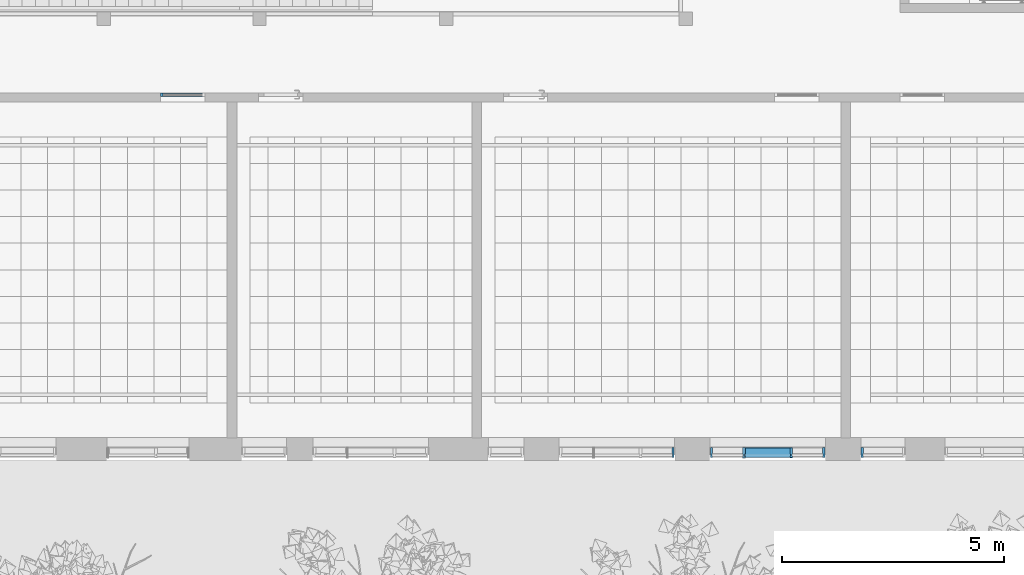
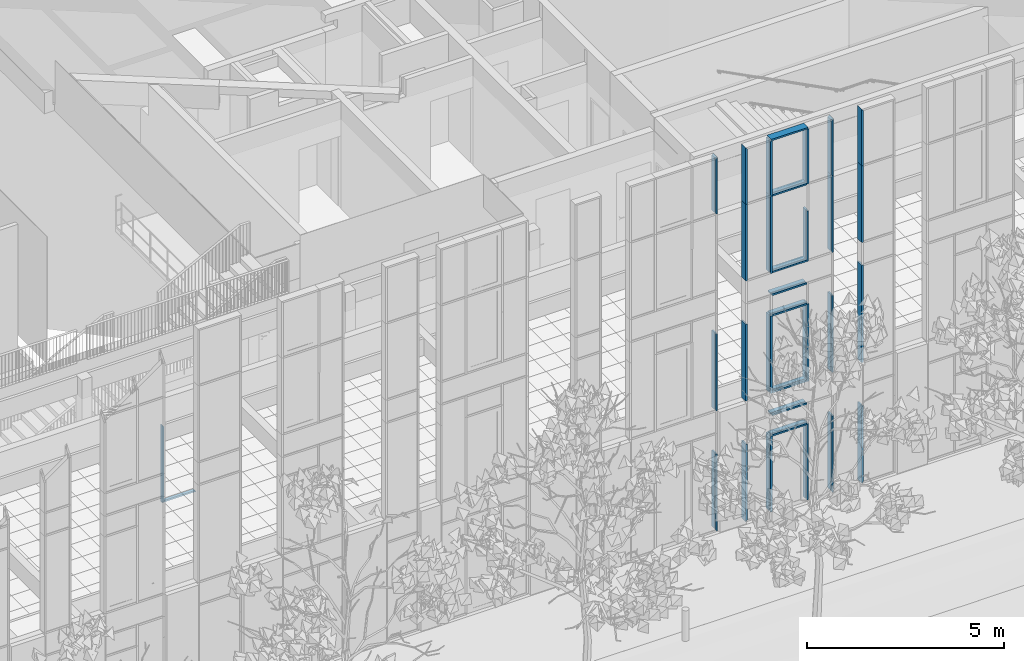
# One storey, part 24 of 246: 33 members, 4 elements without a shape of their own.
"""IFC2X3 building model written with IfcOpenShell, lengths in millimetres."""

from ifc_helpers import new_model, entity, si_unit, converted_unit, derived_unit, money_unit, direction, frame, origin_with_axes, place, context, subcontext, project, spatial, faceted_brep, source, transform, mapped, material, type_object, element, aggregate, save


model = new_model("IFC2X3")

# Units and contexts
model_context = context("Model", 3, precision=0.01, world=origin_with_axes(), true_north=direction((0.0, 1.0)))
body_context = subcontext(model_context, "Body", "Model", "MODEL_VIEW")
ifc_project = project(units=[si_unit("LENGTHUNIT", "METRE", prefix="MILLI"), si_unit("AREAUNIT", "SQUARE_METRE"), si_unit("VOLUMEUNIT", "CUBIC_METRE"), converted_unit("PLANEANGLEUNIT", "DEGREE", entity("IfcPlaneAngleMeasure", 0.0174532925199), si_unit("PLANEANGLEUNIT", "RADIAN"), dimensions=[0, 0, 0, 0, 0, 0, 0]), si_unit("SOLIDANGLEUNIT", "STERADIAN"), money_unit("EUR"), converted_unit("TIMEUNIT", "Year", entity("IfcTimeMeasure", 31556926.0), si_unit("TIMEUNIT", "SECOND"), dimensions=[0, 0, 1, 0, 0, 0, 0]), si_unit("MASSUNIT", "GRAM", prefix="KILO"), si_unit("THERMODYNAMICTEMPERATUREUNIT", "DEGREE_CELSIUS"), si_unit("LUMINOUSINTENSITYUNIT", "LUMEN"), si_unit("ENERGYUNIT", "JOULE", prefix="MEGA"), derived_unit("THERMALCONDUCTANCEUNIT", [(si_unit("POWERUNIT", "WATT"), 1), (si_unit("LENGTHUNIT", "METRE"), -1), (si_unit("THERMODYNAMICTEMPERATUREUNIT", "KELVIN"), -1)]), derived_unit("SPECIFICHEATCAPACITYUNIT", [(si_unit("ENERGYUNIT", "JOULE"), 1), (si_unit("MASSUNIT", "GRAM", prefix="KILO"), -1), (si_unit("THERMODYNAMICTEMPERATUREUNIT", "KELVIN"), -1)]), derived_unit("MASSDENSITYUNIT", [(si_unit("MASSUNIT", "GRAM", prefix="KILO"), 1), (si_unit("VOLUMEUNIT", "CUBIC_METRE"), -1)])], contexts=[model_context])

# Site, building, storey
site_placement = place(None, origin_with_axes())
site = spatial("IfcSite", under=ifc_project, at=site_placement, Name="L.Koidula tn 11b", CompositionType="ELEMENT")
building_placement = place(site_placement, origin_with_axes())
building = spatial("IfcBuilding", under=site, at=building_placement, Name="Rakvere Riigigümnaasium", CompositionType="ELEMENT")
storey_placement = place(building_placement, origin_with_axes())
storey = spatial("IfcBuildingStorey", under=building, at=storey_placement, Name="1.korrus 0,00", CompositionType="ELEMENT", Elevation=0.0)

# Curtain wall, members
curtain_wall_type = type_object("IfcCurtainWallType", Name="Curtain Wall Type", PredefinedType="NOTDEFINED")
curtain_wall_1_placement = place(storey_placement, frame((72896.908541, 5111.45334637, -8.09717227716e-06), z_axis=(0.0, 0.0, 1.0), x_axis=(1.0, 0.0, 0.0)))
curtain_wall_1 = element("IfcCurtainWall", 1, at=curtain_wall_1_placement, inside=storey, type_object=curtain_wall_type, Name="KLF-05-3B")
ifc_material_1 = material(Name="Alumiiniumprofiil (RAL 7021)")
member_type_1 = type_object("IfcMemberType", Name="Boundary Frame 50 x 222", PredefinedType="MULLION")
shared_shape_1 = source(origin_with_axes(), body_context, "Body", "Brep", [
    faceted_brep([(37.0, -32.5, 2375.00000025), (37.0, 32.5, 2375.00000025), (50.0, 32.5, 2375.00000025), (50.0, 53.0, 2375.00000025), (0.0, 53.0, 2375.00000025), (0.0, -169.0, 2375.00000025), (50.0, -169.0, 2375.00000025), (50.0, -32.5, 2375.00000025), (37.0, -32.5, -2.4712543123e-07), (37.0, 32.5, -2.4712543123e-07), (50.0, 32.5, -2.47125653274e-07), (50.0, 53.0, -2.47125653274e-07), (0.0, 53.0, -2.47125653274e-07), (0.0, -169.0, -2.47125653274e-07), (50.0, -169.0, -2.47125653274e-07), (50.0, -32.5, -2.47125653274e-07)], [[[0, 1, 2, 3, 4, 5, 6, 7]], [[1, 0, 8, 9]], [[10, 2, 1, 9]], [[2, 10, 11, 3]], [[12, 4, 3, 11]], [[13, 5, 4, 12]], [[14, 6, 5, 13]], [[15, 7, 6, 14]], [[0, 7, 15, 8]], [[8, 15, 14, 13, 12, 11, 10, 9]]]),
])
member_1_placement = place(curtain_wall_1_placement, frame((-1186.90871197, 0.0, 6120.0), z_axis=(0.0, 0.0, -1.0), x_axis=(1.0, 0.0, 0.0)))
member_1 = element("IfcMember", 2, at=member_1_placement, type_object=member_type_1, material=ifc_material_1, Name="KLF-05-8A-Profiilid", ObjectType="MULLION", context=body_context, shape_type="MappedRepresentation", body=[
    mapped(shared_shape_1, transform((0.0, 0.0, 0.0))),
])
member_2_placement = place(curtain_wall_1_placement, frame((-1186.90888468, 0.0, 9840.0), z_axis=(0.0, 0.0, -1.0), x_axis=(1.0, 0.0, 0.0)))
member_2 = element("IfcMember", 3, at=member_2_placement, type_object=member_type_1, material=ifc_material_1, Name="KLF-05-5A-Profiilid", ObjectType="MULLION", context=body_context, shape_type="MappedRepresentation", body=[
    mapped(shared_shape_1, transform((0.0, 0.0, 0.0))),
])
member_3_placement = place(curtain_wall_1_placement, frame((1393.0913307, 0.0, 7465.0), z_axis=(-7.74479016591e-09, 0.0, 1.0), x_axis=(-1.0, 0.0, -7.74479016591e-09)))
member_3 = element("IfcMember", 4, at=member_3_placement, type_object=member_type_1, material=ifc_material_1, Name="KLF-05-9A-Profiilid", ObjectType="MULLION", context=body_context, shape_type="MappedRepresentation", body=[
    mapped(shared_shape_1, transform((0.0, 0.0, 0.0))),
])
member_4_placement = place(curtain_wall_1_placement, frame((1393.0913307, 0.0, 3745.0), z_axis=(-2.40928437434e-08, 0.0, 1.0), x_axis=(-1.0, 0.0, -2.40928437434e-08)))
member_4 = element("IfcMember", 5, at=member_4_placement, type_object=member_type_1, material=ifc_material_1, Name="KLF-05-6A-Profiilid", ObjectType="MULLION", context=body_context, shape_type="MappedRepresentation", body=[
    mapped(shared_shape_1, transform((0.0, 0.0, 0.0))),
])

# Curtain wall, member
curtain_wall_2_placement = place(storey_placement, frame((69496.9084811, 5111.45334637, -8.09717186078e-06), z_axis=(0.0, 0.0, 1.0), x_axis=(1.0, 0.0, 0.0)))
curtain_wall_2 = element("IfcCurtainWall", 6, at=curtain_wall_2_placement, inside=storey, type_object=curtain_wall_type, Name="KLF-05-3B")
member_5_placement = place(curtain_wall_2_placement, frame((1393.0913307, 0.0, 3745.0), z_axis=(-2.40928437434e-08, 0.0, 1.0), x_axis=(-1.0, 0.0, -2.40928437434e-08)))
member_5 = element("IfcMember", 7, at=member_5_placement, type_object=member_type_1, material=ifc_material_1, Name="KLF-05-6A-Profiilid", ObjectType="MULLION", context=body_context, shape_type="MappedRepresentation", body=[
    mapped(shared_shape_1, transform((0.0, 0.0, 0.0))),
])

curtain_wall_3_placement = place(storey_placement, frame((75600.000125, 5111.45334637, -1.61944652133e-05), z_axis=(0.0, 0.0, 1.0), x_axis=(1.0, 0.0, 0.0)))
curtain_wall_3 = element("IfcCurtainWall", 8, at=curtain_wall_3_placement, inside=storey, type_object=curtain_wall_type, Name="KLF-05-4B")
shared_shape_2 = source(origin_with_axes(), body_context, "Body", "Brep", [
    faceted_brep([(-37.0, -32.5, 2375.0), (-50.0, -32.5, 2375.0), (-50.0, -169.0, 2375.0), (0.0, -169.0, 2375.0), (0.0, 53.0, 2375.0), (-50.0, 53.0, 2375.0), (-50.0, 32.5, 2375.0), (-37.0, 32.5, 2375.0), (-37.0, -32.5, 0.0), (-50.0, -32.5, 0.0), (-50.0, -169.0, 0.0), (0.0, -169.0, 0.0), (0.0, 53.0, 0.0), (-50.0, 53.0, 0.0), (-50.0, 32.5, 0.0), (-37.0, 32.5, 0.0)], [[[0, 1, 2, 3, 4, 5, 6, 7]], [[0, 8, 9, 1]], [[9, 10, 2, 1]], [[10, 11, 3, 2]], [[11, 12, 4, 3]], [[12, 13, 5, 4]], [[6, 5, 13, 14]], [[14, 15, 7, 6]], [[7, 15, 8, 0]], [[8, 15, 14, 13, 12, 11, 10, 9]]]),
])
member_6_placement = place(curtain_wall_3_placement, frame((-490.000127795, 0.0, 7465.0), z_axis=(0.0, 0.0, 1.0), x_axis=(-1.0, 0.0, 0.0)))
member_6 = element("IfcMember", 9, at=member_6_placement, type_object=member_type_1, material=ifc_material_1, Name="KLF-15", ObjectType="MULLION", context=body_context, shape_type="MappedRepresentation", body=[
    mapped(shared_shape_2, transform((0.0, 0.0, 0.0))),
])

# Member
shared_shape_3 = source(origin_with_axes(), body_context, "Body", "Brep", [
    faceted_brep([(37.0, -32.5, 1712.99983191), (37.0, 32.5, 1712.99983191), (50.0, 32.5, 1699.99983191), (50.0, 53.0, 1699.99983191), (0.0, 53.0, 1749.99983191), (0.0, -169.0, 1749.99983191), (50.0, -169.0, 1699.99983191), (50.0, -32.5, 1699.99983191), (37.0, -32.5, -2.47125875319e-07), (37.0, 32.5, -2.47125875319e-07), (50.0, 32.5, -2.47125764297e-07), (50.0, 53.0, -2.47125764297e-07), (0.0, 53.0, -2.47125764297e-07), (0.0, -169.0, -2.47125764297e-07), (50.0, -169.0, -2.47125764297e-07), (50.0, -32.5, -2.47125764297e-07)], [[[0, 1, 2, 3, 4, 5, 6, 7]], [[1, 0, 8, 9]], [[10, 2, 1, 9]], [[2, 10, 11, 3]], [[12, 4, 3, 11]], [[13, 5, 4, 12]], [[14, 6, 5, 13]], [[15, 7, 6, 14]], [[0, 7, 15, 8]], [[8, 15, 14, 13, 12, 11, 10, 9]]]),
])
member_7_placement = place(curtain_wall_1_placement, frame((1393.0913123, 0.0, 9840.0), z_axis=(-1.86264510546e-09, 0.0, 1.0), x_axis=(-1.0, 0.0, -1.86264510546e-09)))
member_7 = element("IfcMember", 10, at=member_7_placement, type_object=member_type_1, material=ifc_material_1, Name="KLF-05-0A-Profiilid", ObjectType="MULLION", context=body_context, shape_type="MappedRepresentation", body=[
    mapped(shared_shape_3, transform((0.0, 0.0, 0.0))),
])

member_8_placement = place(curtain_wall_2_placement, frame((1393.0913123, 0.0, 9840.0), z_axis=(-1.86264510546e-09, 0.0, 1.0), x_axis=(-1.0, 0.0, -1.86264510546e-09)))
member_8 = element("IfcMember", 11, at=member_8_placement, type_object=member_type_1, material=ifc_material_1, Name="KLF-05-0A-Profiilid", ObjectType="MULLION", context=body_context, shape_type="MappedRepresentation", body=[
    mapped(shared_shape_3, transform((0.0, 0.0, 0.0))),
])

member_type_2 = type_object("IfcMemberType", Name="Mullion Frame 50 x 222", PredefinedType="MULLION")
shared_shape_4 = source(origin_with_axes(), body_context, "Body", "Brep", [
    faceted_brep([(-12.0, -32.5, 2375.0), (-25.0, -32.5, 2375.0), (-25.0, -169.0, 2375.0), (25.0, -169.0, 2375.0), (25.0, -32.5, 2375.0), (12.0, -32.5, 2375.0), (12.0, 32.5, 2375.0), (25.0, 32.5, 2375.0), (25.0, 53.0, 2375.0), (-25.0, 53.0, 2375.0), (-25.0, 32.5, 2375.0), (-12.0, 32.5, 2375.0), (-12.0, -32.5, -25.0), (-25.0, -32.5, -25.0), (-25.0, -169.0, -25.0), (25.0, -169.0, -25.0), (25.0, -32.5, -25.0), (12.0, -32.5, -25.0), (12.0, 32.5, -25.0), (25.0, 32.5, -25.0), (25.0, 53.0, -25.0), (-25.0, 53.0, -25.0), (-25.0, 32.5, -25.0), (-12.0, 32.5, -25.0)], [[[0, 1, 2, 3, 4, 5, 6, 7, 8, 9, 10, 11]], [[1, 0, 12, 13]], [[1, 13, 14, 2]], [[3, 2, 14, 15]], [[4, 3, 15, 16]], [[4, 16, 17, 5]], [[5, 17, 18, 6]], [[7, 6, 18, 19]], [[19, 20, 8, 7]], [[9, 8, 20, 21]], [[22, 10, 9, 21]], [[11, 10, 22, 23]], [[0, 11, 23, 12]], [[23, 22, 21, 20, 19, 18, 17, 16, 15, 14, 13, 12]]]),
])
member_9_placement = place(curtain_wall_1_placement, frame((-431.908628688, 0.0, 3745.0), z_axis=(0.0, 0.0, 1.0), x_axis=(-1.0, 0.0, 0.0)))
member_9 = element("IfcMember", 12, at=member_9_placement, type_object=member_type_2, material=ifc_material_1, Name="KLF-05-9A-Profiilid", ObjectType="MULLION", context=body_context, shape_type="MappedRepresentation", body=[
    mapped(shared_shape_4, transform((0.0, 0.0, 0.0))),
])

member_10_placement = place(curtain_wall_1_placement, frame((-431.908628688, 0.0, 7465.0), z_axis=(0.0, 0.0, 1.0), x_axis=(-1.0, 0.0, 0.0)))
member_10 = element("IfcMember", 13, at=member_10_placement, type_object=member_type_2, material=ifc_material_1, Name="KLF-05-6A-Profiilid", ObjectType="MULLION", context=body_context, shape_type="MappedRepresentation", body=[
    mapped(shared_shape_4, transform((0.0, 0.0, 0.0))),
])

shared_shape_5 = source(origin_with_axes(), body_context, "Body", "Brep", [
    faceted_brep([(37.0, -32.5, 2400.0), (37.0, 32.5, 2400.0), (50.0, 32.5, 2400.0), (50.0, 53.0, 2400.0), (0.0, 53.0, 2400.0), (0.0, -169.0, 2400.0), (50.0, -169.0, 2400.0), (50.0, -32.5, 2400.0), (37.0, -32.5, 37.0), (37.0, 32.5, 37.0), (50.0, 32.5, 50.0), (50.0, 53.0, 50.0), (0.0, 53.0, 0.0), (0.0, -169.0, 0.0), (50.0, -169.0, 50.0), (50.0, -32.5, 50.0)], [[[0, 1, 2, 3, 4, 5, 6, 7]], [[1, 0, 8, 9]], [[10, 2, 1, 9]], [[2, 10, 11, 3]], [[4, 3, 11, 12]], [[5, 4, 12, 13]], [[6, 5, 13, 14]], [[15, 7, 6, 14]], [[0, 7, 15, 8]], [[8, 15, 14, 13, 12, 11, 10, 9]]]),
])
member_11_placement = place(curtain_wall_1_placement, frame((1393.0913307, 0.0, 0.0), z_axis=(-2.38418766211e-08, 0.0, 1.0), x_axis=(-1.0, 0.0, -2.38418766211e-08)))
member_11 = element("IfcMember", 14, at=member_11_placement, type_object=member_type_1, material=ifc_material_1, Name="KLF-05-3A-Profiilid", ObjectType="MULLION", context=body_context, shape_type="MappedRepresentation", body=[
    mapped(shared_shape_5, transform((0.0, 0.0, 0.0))),
])

member_12_placement = place(curtain_wall_2_placement, frame((1393.0913307, 0.0, 0.0), z_axis=(-2.38418766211e-08, 0.0, 1.0), x_axis=(-1.0, 0.0, -2.38418766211e-08)))
member_12 = element("IfcMember", 15, at=member_12_placement, type_object=member_type_1, material=ifc_material_1, Name="KLF-05-3A-Profiilid", ObjectType="MULLION", context=body_context, shape_type="MappedRepresentation", body=[
    mapped(shared_shape_5, transform((0.0, 0.0, 0.0))),
])

aggregate(curtain_wall_2, [member_5, member_12, member_8])

member_type_3 = type_object("IfcMemberType", Name="50 x 208", PredefinedType="MULLION")
shared_shape_6 = source(origin_with_axes(), body_context, "Body", "Brep", [
    faceted_brep([(-12.0, -27.0, 1025.45673266), (-25.0, -27.0, 1025.45673266), (-25.0, -160.0, 1025.45673266), (25.0, -160.0, 1025.45673266), (25.0, -27.0, 1025.45673266), (12.0, -27.0, 1025.45673266), (12.0, 27.0, 1025.45673266), (25.0, 27.0, 1025.45673266), (25.0, 48.0, 1025.45673266), (-25.0, 48.0, 1025.45673266), (-25.0, 27.0, 1025.45673266), (-12.0, 27.0, 1025.45673266), (-12.0, -27.0, 0.0), (-25.0, -27.0, 0.0), (-25.0, -160.0, 0.0), (25.0, -160.0, 0.0), (25.0, -27.0, 0.0), (12.0, -27.0, 0.0), (12.0, 27.0, 0.0), (25.0, 27.0, 0.0), (25.0, 48.0, 0.0), (-25.0, 48.0, 0.0), (-25.0, 27.0, 0.0), (-12.0, 27.0, 0.0)], [[[0, 1, 2, 3, 4, 5, 6, 7, 8, 9, 10, 11]], [[1, 0, 12, 13]], [[1, 13, 14, 2]], [[3, 2, 14, 15]], [[4, 3, 15, 16]], [[4, 16, 17, 5]], [[5, 17, 18, 6]], [[7, 6, 18, 19]], [[19, 20, 8, 7]], [[9, 8, 20, 21]], [[22, 10, 9, 21]], [[11, 10, 22, 23]], [[0, 11, 23, 12]], [[23, 22, 21, 20, 19, 18, 17, 16, 15, 14, 13, 12]]]),
])
member_13_placement = place(curtain_wall_1_placement, frame((-412.365361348, 0.0, 2400.0), z_axis=(1.0, 0.0, 0.0), x_axis=(0.0, 0.0, 1.0)))
member_13 = element("IfcMember", 16, at=member_13_placement, type_object=member_type_3, material=ifc_material_1, Name="KLF-40", ObjectType="MULLION", context=body_context, shape_type="MappedRepresentation", body=[
    mapped(shared_shape_6, transform((0.0, 0.0, 0.0))),
])

member_14_placement = place(curtain_wall_1_placement, frame((-412.365361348, 0.0, 3040.0), z_axis=(1.0, 0.0, 0.0), x_axis=(0.0, 0.0, 1.0)))
member_14 = element("IfcMember", 17, at=member_14_placement, type_object=member_type_3, material=ifc_material_1, Name="KLF-82", ObjectType="MULLION", context=body_context, shape_type="MappedRepresentation", body=[
    mapped(shared_shape_6, transform((0.0, 0.0, 0.0))),
])

member_15_placement = place(curtain_wall_1_placement, frame((-412.365361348, 0.0, 3745.0), z_axis=(1.0, 0.0, 0.0), x_axis=(0.0, 0.0, 1.0)))
member_15 = element("IfcMember", 18, at=member_15_placement, type_object=member_type_3, material=ifc_material_1, Name="KLF-84", ObjectType="MULLION", context=body_context, shape_type="MappedRepresentation", body=[
    mapped(shared_shape_6, transform((0.0, 0.0, 0.0))),
])

member_16_placement = place(curtain_wall_1_placement, frame((-412.365361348, 0.0, 6120.0), z_axis=(1.0, 0.0, 0.0), x_axis=(0.0, 0.0, 1.0)))
member_16 = element("IfcMember", 19, at=member_16_placement, type_object=member_type_3, material=ifc_material_1, Name="KLF-15", ObjectType="MULLION", context=body_context, shape_type="MappedRepresentation", body=[
    mapped(shared_shape_6, transform((0.0, 0.0, 0.0))),
])

member_17_placement = place(curtain_wall_1_placement, frame((-412.365361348, 0.0, 6760.0), z_axis=(1.0, 0.0, 0.0), x_axis=(0.0, 0.0, 1.0)))
member_17 = element("IfcMember", 20, at=member_17_placement, type_object=member_type_3, material=ifc_material_1, Name="KLF-17", ObjectType="MULLION", context=body_context, shape_type="MappedRepresentation", body=[
    mapped(shared_shape_6, transform((0.0, 0.0, 0.0))),
])

member_18_placement = place(curtain_wall_1_placement, frame((-412.365361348, 0.0, 7465.0), z_axis=(1.0, 0.0, 0.0), x_axis=(0.0, 0.0, 1.0)))
member_18 = element("IfcMember", 21, at=member_18_placement, type_object=member_type_3, material=ifc_material_1, Name="KLF-50", ObjectType="MULLION", context=body_context, shape_type="MappedRepresentation", body=[
    mapped(shared_shape_6, transform((0.0, 0.0, 0.0))),
])

shared_shape_7 = source(origin_with_axes(), body_context, "Body", "Brep", [
    faceted_brep([(-12.0, -32.5, 1699.99983191), (-25.0, -32.5, 1699.99983191), (-25.0, -169.0, 1699.99983191), (25.0, -169.0, 1699.99983191), (25.0, -32.5, 1699.99983191), (12.0, -32.5, 1699.99983191), (12.0, 32.5, 1699.99983191), (25.0, 32.5, 1699.99983191), (25.0, 53.0, 1699.99983191), (-25.0, 53.0, 1699.99983191), (-25.0, 32.5, 1699.99983191), (-12.0, 32.5, 1699.99983191), (-12.0, -32.5, 0.0), (-25.0, -32.5, 0.0), (-25.0, -169.0, 0.0), (25.0, -169.0, 0.0), (25.0, -32.5, 0.0), (12.0, -32.5, 0.0), (12.0, 32.5, 0.0), (25.0, 32.5, 0.0), (25.0, 53.0, 0.0), (-25.0, 53.0, 0.0), (-25.0, 32.5, 0.0), (-12.0, 32.5, 0.0)], [[[0, 1, 2, 3, 4, 5, 6, 7, 8, 9, 10, 11]], [[1, 0, 12, 13]], [[1, 13, 14, 2]], [[3, 2, 14, 15]], [[4, 3, 15, 16]], [[4, 16, 17, 5]], [[5, 17, 18, 6]], [[7, 6, 18, 19]], [[19, 20, 8, 7]], [[9, 8, 20, 21]], [[22, 10, 9, 21]], [[11, 10, 22, 23]], [[0, 11, 23, 12]], [[23, 22, 21, 20, 19, 18, 17, 16, 15, 14, 13, 12]]]),
])
member_19_placement = place(curtain_wall_1_placement, frame((-431.908628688, 0.0, 9840.0), z_axis=(0.0, 0.0, 1.0), x_axis=(-1.0, 0.0, 0.0)))
member_19 = element("IfcMember", 22, at=member_19_placement, type_object=member_type_2, material=ifc_material_1, Name="KLF-05-5A-Profiilid", ObjectType="MULLION", context=body_context, shape_type="MappedRepresentation", body=[
    mapped(shared_shape_7, transform((0.0, 0.0, 0.0))),
])

member_20_placement = place(curtain_wall_1_placement, frame((638.091371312, 0.0, 9840.0), z_axis=(0.0, 0.0, 1.0), x_axis=(-1.0, 0.0, 0.0)))
member_20 = element("IfcMember", 23, at=member_20_placement, type_object=member_type_2, material=ifc_material_1, Name="KLF-05-6A-Profiilid", ObjectType="MULLION", context=body_context, shape_type="MappedRepresentation", body=[
    mapped(shared_shape_7, transform((0.0, 0.0, 0.0))),
])

shared_shape_8 = source(origin_with_axes(), body_context, "Body", "Brep", [
    faceted_brep([(-37.0, -32.5, 2400.0), (-50.0, -32.5, 2400.0), (-50.0, -169.0, 2400.0), (0.0, -169.0, 2400.0), (0.0, 53.0, 2400.0), (-50.0, 53.0, 2400.0), (-50.0, 32.5, 2400.0), (-37.0, 32.5, 2400.0), (-37.0, -32.5, 37.0), (-50.0, -32.5, 50.0), (-50.0, -169.0, 50.0), (0.0, -169.0, 0.0), (0.0, 53.0, 0.0), (-50.0, 53.0, 50.0), (-50.0, 32.5, 50.0), (-37.0, 32.5, 37.0)], [[[0, 1, 2, 3, 4, 5, 6, 7]], [[0, 8, 9, 1]], [[9, 10, 2, 1]], [[2, 10, 11, 3]], [[3, 11, 12, 4]], [[4, 12, 13, 5]], [[6, 5, 13, 14]], [[14, 15, 7, 6]], [[7, 15, 8, 0]], [[8, 15, 14, 13, 12, 11, 10, 9]]]),
])
member_21_placement = place(curtain_wall_3_placement, frame((-490.000127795, 0.0, 0.0), z_axis=(0.0, 0.0, 1.0), x_axis=(-1.0, 0.0, 0.0)))
member_21 = element("IfcMember", 24, at=member_21_placement, type_object=member_type_1, material=ifc_material_1, Name="KLF-20", ObjectType="MULLION", context=body_context, shape_type="MappedRepresentation", body=[
    mapped(shared_shape_8, transform((0.0, 0.0, 0.0))),
])

shared_shape_9 = source(origin_with_axes(), body_context, "Body", "Brep", [
    faceted_brep([(-37.0, -32.5, 1712.99983191), (-50.0, -32.5, 1699.99983191), (-50.0, -169.0, 1699.99983191), (0.0, -169.0, 1749.99983191), (0.0, 53.0, 1749.99983191), (-50.0, 53.0, 1699.99983191), (-50.0, 32.5, 1699.99983191), (-37.0, 32.5, 1712.99983191), (-37.0, -32.5, 0.0), (-50.0, -32.5, 0.0), (-50.0, -169.0, 0.0), (0.0, -169.0, 0.0), (0.0, 53.0, 0.0), (-50.0, 53.0, 0.0), (-50.0, 32.5, 0.0), (-37.0, 32.5, 0.0)], [[[0, 1, 2, 3, 4, 5, 6, 7]], [[0, 8, 9, 1]], [[9, 10, 2, 1]], [[10, 11, 3, 2]], [[11, 12, 4, 3]], [[12, 13, 5, 4]], [[6, 5, 13, 14]], [[14, 15, 7, 6]], [[7, 15, 8, 0]], [[8, 15, 14, 13, 12, 11, 10, 9]]]),
])
member_22_placement = place(curtain_wall_3_placement, frame((-490.000127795, 0.0, 9840.0), z_axis=(0.0, 0.0, 1.0), x_axis=(-1.0, 0.0, 0.0)))
member_22 = element("IfcMember", 25, at=member_22_placement, type_object=member_type_1, material=ifc_material_1, Name="KLF-14", ObjectType="MULLION", context=body_context, shape_type="MappedRepresentation", body=[
    mapped(shared_shape_9, transform((0.0, 0.0, 0.0))),
])

shared_shape_10 = source(origin_with_axes(), body_context, "Body", "Brep", [
    faceted_brep([(-12.0, -27.0, 2400.00026018), (-25.0, -27.0, 2400.00026018), (-25.0, -160.0, 2400.00026018), (25.0, -160.0, 2400.00026018), (25.0, -27.0, 2400.00026018), (12.0, -27.0, 2400.00026018), (12.0, 27.0, 2400.00026018), (25.0, 27.0, 2400.00026018), (25.0, 48.0, 2400.00026018), (-25.0, 48.0, 2400.00026018), (-25.0, 27.0, 2400.00026018), (-12.0, 27.0, 2400.00026018), (-12.0, -27.0, 50.0), (-25.0, -27.0, 50.0), (-25.0, -160.0, 50.0), (25.0, -160.0, 50.0), (25.0, -27.0, 50.0), (12.0, -27.0, 50.0), (12.0, 27.0, 50.0), (25.0, 27.0, 50.0), (25.0, 48.0, 50.0), (-25.0, 48.0, 50.0), (-25.0, 27.0, 50.0), (-12.0, 27.0, 50.0)], [[[0, 1, 2, 3, 4, 5, 6, 7, 8, 9, 10, 11]], [[1, 0, 12, 13]], [[1, 13, 14, 2]], [[2, 14, 15, 3]], [[4, 3, 15, 16]], [[4, 16, 17, 5]], [[5, 17, 18, 6]], [[7, 6, 18, 19]], [[19, 20, 8, 7]], [[8, 20, 21, 9]], [[22, 10, 9, 21]], [[11, 10, 22, 23]], [[0, 11, 23, 12]], [[23, 22, 21, 20, 19, 18, 17, 16, 15, 14, 13, 12]]]),
])
member_23_placement = place(curtain_wall_1_placement, frame((638.091371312, 0.0, 0.0), z_axis=(0.0, 0.0, 1.0), x_axis=(-1.0, 0.0, 0.0)))
member_23 = element("IfcMember", 26, at=member_23_placement, type_object=member_type_3, material=ifc_material_1, Name="KLF-24", ObjectType="MULLION", context=body_context, shape_type="MappedRepresentation", body=[
    mapped(shared_shape_10, transform((0.0, 0.0, 0.0))),
])

shared_shape_11 = source(origin_with_axes(), body_context, "Body", "Brep", [
    faceted_brep([(-12.0, -32.5, 2400.0), (-25.0, -32.5, 2400.0), (-25.0, -169.0, 2400.0), (25.0, -169.0, 2400.0), (25.0, -32.5, 2400.0), (12.0, -32.5, 2400.0), (12.0, 32.5, 2400.0), (25.0, 32.5, 2400.0), (25.0, 53.0, 2400.0), (-25.0, 53.0, 2400.0), (-25.0, 32.5, 2400.0), (-12.0, 32.5, 2400.0), (-12.0, -32.5, 50.0), (-25.0, -32.5, 50.0), (-25.0, -169.0, 50.0), (25.0, -169.0, 50.0), (25.0, -32.5, 50.0), (12.0, -32.5, 50.0), (12.0, 32.5, 50.0), (25.0, 32.5, 50.0), (25.0, 53.0, 50.0), (-25.0, 53.0, 50.0), (-25.0, 32.5, 50.0), (-12.0, 32.5, 50.0)], [[[0, 1, 2, 3, 4, 5, 6, 7, 8, 9, 10, 11]], [[1, 0, 12, 13]], [[1, 13, 14, 2]], [[2, 14, 15, 3]], [[4, 3, 15, 16]], [[4, 16, 17, 5]], [[5, 17, 18, 6]], [[7, 6, 18, 19]], [[19, 20, 8, 7]], [[8, 20, 21, 9]], [[22, 10, 9, 21]], [[11, 10, 22, 23]], [[0, 11, 23, 12]], [[23, 22, 21, 20, 19, 18, 17, 16, 15, 14, 13, 12]]]),
])
member_24_placement = place(curtain_wall_1_placement, frame((-431.908628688, 0.0, 0.0), z_axis=(0.0, 0.0, 1.0), x_axis=(-1.0, 0.0, 0.0)))
member_24 = element("IfcMember", 27, at=member_24_placement, type_object=member_type_2, material=ifc_material_1, Name="KLF-05-2A-Profiilid", ObjectType="MULLION", context=body_context, shape_type="MappedRepresentation", body=[
    mapped(shared_shape_11, transform((0.0, 0.0, 0.0))),
])

shared_shape_12 = source(origin_with_axes(), body_context, "Body", "Brep", [
    faceted_brep([(-12.0, -27.0, 1535.0), (-25.0, -27.0, 1535.0), (-25.0, -160.0, 1535.0), (25.0, -160.0, 1535.0), (25.0, -27.0, 1535.0), (12.0, -27.0, 1535.0), (12.0, 27.0, 1535.0), (25.0, 27.0, 1535.0), (25.0, 48.0, 1535.0), (-25.0, 48.0, 1535.0), (-25.0, 27.0, 1535.0), (-12.0, 27.0, 1535.0), (-12.0, -27.0, -25.0), (-25.0, -27.0, -25.0), (-25.0, -160.0, -25.0), (25.0, -160.0, -25.0), (25.0, -27.0, -25.0), (12.0, -27.0, -25.0), (12.0, 27.0, -25.0), (25.0, 27.0, -25.0), (25.0, 48.0, -25.0), (-25.0, 48.0, -25.0), (-25.0, 27.0, -25.0), (-12.0, 27.0, -25.0)], [[[0, 1, 2, 3, 4, 5, 6, 7, 8, 9, 10, 11]], [[1, 0, 12, 13]], [[1, 13, 14, 2]], [[3, 2, 14, 15]], [[4, 3, 15, 16]], [[4, 16, 17, 5]], [[5, 17, 18, 6]], [[7, 6, 18, 19]], [[19, 20, 8, 7]], [[9, 8, 20, 21]], [[22, 10, 9, 21]], [[11, 10, 22, 23]], [[0, 11, 23, 12]], [[23, 22, 21, 20, 19, 18, 17, 16, 15, 14, 13, 12]]]),
])
member_25_placement = place(curtain_wall_1_placement, frame((638.091371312, 0.0, 7465.0), z_axis=(0.0, 0.0, 1.0), x_axis=(-1.0, 0.0, 0.0)))
member_25 = element("IfcMember", 28, at=member_25_placement, type_object=member_type_3, material=ifc_material_1, Name="KLF-25", ObjectType="MULLION", context=body_context, shape_type="MappedRepresentation", body=[
    mapped(shared_shape_12, transform((0.0, 0.0, 0.0))),
])

member_type_4 = type_object("IfcMemberType", Name="50 x 222", PredefinedType="MULLION")
shared_shape_13 = source(origin_with_axes(), body_context, "Body", "Brep", [
    faceted_brep([(-12.0, -27.0, 2375.0), (-25.0, -27.0, 2375.0), (-25.0, -169.0, 2375.0), (25.0, -169.0, 2375.0), (25.0, -27.0, 2375.0), (12.0, -27.0, 2375.0), (12.0, 27.0, 2375.0), (25.0, 27.0, 2375.0), (25.0, 53.0, 2375.0), (-25.0, 53.0, 2375.0), (-25.0, 27.0, 2375.0), (-12.0, 27.0, 2375.0), (-12.0, -27.0, -25.0), (-25.0, -27.0, -25.0), (-25.0, -169.0, -25.0), (25.0, -169.0, -25.0), (25.0, -27.0, -25.0), (12.0, -27.0, -25.0), (12.0, 27.0, -25.0), (25.0, 27.0, -25.0), (25.0, 53.0, -25.0), (-25.0, 53.0, -25.0), (-25.0, 27.0, -25.0), (-12.0, 27.0, -25.0)], [[[0, 1, 2, 3, 4, 5, 6, 7, 8, 9, 10, 11]], [[1, 0, 12, 13]], [[1, 13, 14, 2]], [[3, 2, 14, 15]], [[4, 3, 15, 16]], [[4, 16, 17, 5]], [[5, 17, 18, 6]], [[7, 6, 18, 19]], [[19, 20, 8, 7]], [[9, 8, 20, 21]], [[22, 10, 9, 21]], [[11, 10, 22, 23]], [[0, 11, 23, 12]], [[23, 22, 21, 20, 19, 18, 17, 16, 15, 14, 13, 12]]]),
])
member_26_placement = place(curtain_wall_1_placement, frame((638.091371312, 0.0, 3745.0), z_axis=(0.0, 0.0, 1.0), x_axis=(-1.0, 0.0, 0.0)))
member_26 = element("IfcMember", 29, at=member_26_placement, type_object=member_type_4, material=ifc_material_1, Name="KLF-67", ObjectType="MULLION", context=body_context, shape_type="MappedRepresentation", body=[
    mapped(shared_shape_13, transform((0.0, 0.0, 0.0))),
])

shared_shape_14 = source(origin_with_axes(), body_context, "Body", "Brep", [
    faceted_brep([(37.0, -32.5, 2363.0), (37.0, 32.5, 2363.0), (50.0, 32.5, 2350.0), (50.0, 53.0, 2350.0), (0.0, 53.0, 2400.0), (0.0, -169.0, 2400.0), (50.0, -169.0, 2350.0), (50.0, -32.5, 2350.0), (37.0, -32.5, 0.0), (37.0, 32.5, 0.0), (50.0, 32.5, 0.0), (50.0, 53.0, 0.0), (0.0, 53.0, 0.0), (0.0, -169.0, 0.0), (50.0, -169.0, 0.0), (50.0, -32.5, 0.0)], [[[0, 1, 2, 3, 4, 5, 6, 7]], [[1, 0, 8, 9]], [[10, 2, 1, 9]], [[2, 10, 11, 3]], [[12, 4, 3, 11]], [[13, 5, 4, 12]], [[14, 6, 5, 13]], [[15, 7, 6, 14]], [[0, 7, 15, 8]], [[8, 15, 14, 13, 12, 11, 10, 9]]]),
])
member_27_placement = place(curtain_wall_1_placement, frame((-1186.90871197, 0.0, 2400.0), z_axis=(0.0, 0.0, -1.0), x_axis=(1.0, 0.0, 0.0)))
member_27 = element("IfcMember", 30, at=member_27_placement, type_object=member_type_1, material=ifc_material_1, Name="KLF-05-9A-Profiilid", ObjectType="MULLION", context=body_context, shape_type="MappedRepresentation", body=[
    mapped(shared_shape_14, transform((0.0, 0.0, 0.0))),
])

shared_shape_15 = source(origin_with_axes(), body_context, "Body", "Brep", [
    faceted_brep([(37.0, -32.5, 1749.99983313), (37.0, 32.5, 1749.99983313), (50.0, 32.5, 1749.99983313), (50.0, 53.0, 1749.99983313), (0.0, 53.0, 1749.99983313), (0.0, -169.0, 1749.99983313), (50.0, -169.0, 1749.99983313), (50.0, -32.5, 1749.99983313), (37.0, -32.5, 37.0000017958), (37.0, 32.5, 37.0000017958), (50.0, 32.5, 50.0000024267), (50.0, 53.0, 50.0000024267), (0.0, 53.0, 0.0), (0.0, -169.0, 0.0), (50.0, -169.0, 50.0000024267), (50.0, -32.5, 50.0000024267)], [[[0, 1, 2, 3, 4, 5, 6, 7]], [[1, 0, 8, 9]], [[10, 2, 1, 9]], [[2, 10, 11, 3]], [[4, 3, 11, 12]], [[5, 4, 12, 13]], [[6, 5, 13, 14]], [[15, 7, 6, 14]], [[0, 7, 15, 8]], [[8, 15, 14, 13, 12, 11, 10, 9]]]),
])
member_28_placement = place(curtain_wall_1_placement, frame((-1186.90890227, 0.0, 11590.0000411), z_axis=(1.00537490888e-08, 0.0, -1.0), x_axis=(1.0, 0.0, 1.00537490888e-08)))
member_28 = element("IfcMember", 31, at=member_28_placement, type_object=member_type_1, material=ifc_material_1, Name="KLF-05-4A-Profiilid", ObjectType="MULLION", context=body_context, shape_type="MappedRepresentation", body=[
    mapped(shared_shape_15, transform((0.0, 0.0, 0.0))),
])

# Curtain wall, members
curtain_wall_4_placement = place(storey_placement, frame((59810.0162357, 13240.4508952, 0.0), z_axis=(0.0, 0.0, 1.0), x_axis=(1.0, 0.0, 0.0)))
curtain_wall_4 = element("IfcCurtainWall", 32, at=curtain_wall_4_placement, inside=storey, type_object=curtain_wall_type, Name="SKLF-07")
ifc_material_2 = material(Name="Klaasvill")
member_type_5 = type_object("IfcMemberType", Name="Boundary Frame 50 x 80", PredefinedType="MULLION")
shared_shape_16 = source(origin_with_axes(), body_context, "Body", "Brep", [
    faceted_brep([(-50.0, 40.0, 50.0), (-50.0, -40.0, 50.0), (-50.0, -40.0, 950.000004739), (-50.0, 40.0, 950.000004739), (0.0, 40.0, 0.0), (0.0, -40.0, 0.0), (0.0, -40.0, 1000.00000474), (0.0, 40.0, 1000.00000474)], [[[0, 1, 2, 3]], [[1, 0, 4, 5]], [[1, 5, 6, 2]], [[2, 6, 7, 3]], [[4, 0, 3, 7]], [[5, 4, 7, 6]]]),
])
member_29_placement = place(curtain_wall_4_placement, frame((-500.00000237, 0.0, 0.0), z_axis=(1.0, 0.0, 0.0), x_axis=(0.0, 0.0, 1.0)))
member_29 = element("IfcMember", 33, at=member_29_placement, type_object=member_type_5, material=ifc_material_2, Name="SKLF-26-raam", ObjectType="MULLION", context=body_context, shape_type="MappedRepresentation", body=[
    mapped(shared_shape_16, transform((0.0, 0.0, 0.0), x_axis=(-1.0, 0.0, 0.0), y_axis=(0.0, -1.0, 0.0), z_axis=(0.0, 0.0, 1.0))),
])
shared_shape_17 = source(origin_with_axes(), body_context, "Body", "Brep", [
    faceted_brep([(-50.0, 40.0, 50.0), (-50.0, -40.0, 50.0), (-50.0, -40.0, 2350.0), (-50.0, 40.0, 2350.0), (0.0, 40.0, 0.0), (0.0, -40.0, 0.0), (0.0, -40.0, 2400.0), (0.0, 40.0, 2400.0)], [[[0, 1, 2, 3]], [[1, 0, 4, 5]], [[1, 5, 6, 2]], [[2, 6, 7, 3]], [[4, 0, 3, 7]], [[5, 4, 7, 6]]]),
])
member_30_placement = place(curtain_wall_4_placement, frame((-500.00000237, 0.0, 2400.0), z_axis=(0.0, 0.0, -1.0), x_axis=(1.0, 0.0, 0.0)))
member_30 = element("IfcMember", 34, at=member_30_placement, type_object=member_type_5, material=ifc_material_2, Name="SKLF-29-raam", ObjectType="MULLION", context=body_context, shape_type="MappedRepresentation", body=[
    mapped(shared_shape_17, transform((0.0, 0.0, 0.0), x_axis=(-1.0, 0.0, 0.0), y_axis=(0.0, -1.0, 0.0), z_axis=(0.0, 0.0, 1.0))),
])
aggregate(curtain_wall_4, [member_29, member_30])

# Member
shared_shape_18 = source(origin_with_axes(), body_context, "Body", "Brep", [
    faceted_brep([(-37.0, -32.5, 3015.0), (-50.0, -32.5, 3015.0), (-50.0, -169.0, 3015.0), (0.0, -169.0, 3015.0), (0.0, 53.0, 3015.0), (-50.0, 53.0, 3015.0), (-50.0, 32.5, 3015.0), (-37.0, 32.5, 3015.0), (-37.0, -32.5, 0.0), (-50.0, -32.5, 0.0), (-50.0, -169.0, 0.0), (0.0, -169.0, 0.0), (0.0, 53.0, 0.0), (-50.0, 53.0, 0.0), (-50.0, 32.5, 0.0), (-37.0, 32.5, 0.0)], [[[0, 1, 2, 3, 4, 5, 6, 7]], [[0, 8, 9, 1]], [[9, 10, 2, 1]], [[10, 11, 3, 2]], [[11, 12, 4, 3]], [[12, 13, 5, 4]], [[6, 5, 13, 14]], [[14, 15, 7, 6]], [[7, 15, 8, 0]], [[8, 15, 14, 13, 12, 11, 10, 9]]]),
])
member_31_placement = place(curtain_wall_3_placement, frame((-490.000127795, 0.0, 3745.0), z_axis=(0.0, 0.0, 1.0), x_axis=(-1.0, 0.0, 0.0)))
member_31 = element("IfcMember", 35, at=member_31_placement, type_object=member_type_1, material=ifc_material_1, Name="KLF-17", ObjectType="MULLION", context=body_context, shape_type="MappedRepresentation", body=[
    mapped(shared_shape_18, transform((0.0, 0.0, 0.0))),
])

aggregate(curtain_wall_3, [member_21, member_31, member_6, member_22])

member_type_6 = type_object("IfcMemberType", Name="Transom Frame 50 x 222", PredefinedType="MULLION")
shared_shape_19 = source(origin_with_axes(), body_context, "Body", "Brep", [
    faceted_brep([(-12.0, -32.5, 1045.0), (-25.0, -32.5, 1045.0), (-25.0, -169.0, 1045.0), (25.0, -169.0, 1045.0), (25.0, -32.5, 1045.0), (12.0, -32.5, 1045.0), (12.0, 32.5, 1045.0), (25.0, 32.5, 1045.0), (25.0, 53.0, 1045.0), (-25.0, 53.0, 1045.0), (-25.0, 32.5, 1045.0), (-12.0, 32.5, 1045.0), (-12.0, -32.5, 25.0), (-25.0, -32.5, 25.0), (-25.0, -169.0, 25.0), (25.0, -169.0, 25.0), (25.0, -32.5, 25.0), (12.0, -32.5, 25.0), (12.0, 32.5, 25.0), (25.0, 32.5, 25.0), (25.0, 53.0, 25.0), (-25.0, 53.0, 25.0), (-25.0, 32.5, 25.0), (-12.0, 32.5, 25.0)], [[[0, 1, 2, 3, 4, 5, 6, 7, 8, 9, 10, 11]], [[1, 0, 12, 13]], [[1, 13, 14, 2]], [[2, 14, 15, 3]], [[4, 3, 15, 16]], [[4, 16, 17, 5]], [[5, 17, 18, 6]], [[7, 6, 18, 19]], [[19, 20, 8, 7]], [[8, 20, 21, 9]], [[22, 10, 9, 21]], [[11, 10, 22, 23]], [[0, 11, 23, 12]], [[23, 22, 21, 20, 19, 18, 17, 16, 15, 14, 13, 12]]]),
])
member_32_placement = place(curtain_wall_1_placement, frame((-431.908628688, 0.0, 9840.0), z_axis=(1.0, 0.0, 0.0), x_axis=(0.0, 0.0, 1.0)))
member_32 = element("IfcMember", 36, at=member_32_placement, type_object=member_type_6, material=ifc_material_1, Name="KLF-05-6A-Profiilid", ObjectType="MULLION", context=body_context, shape_type="MappedRepresentation", body=[
    mapped(shared_shape_19, transform((0.0, 0.0, 0.0))),
])

shared_shape_20 = source(origin_with_axes(), body_context, "Body", "Brep", [
    faceted_brep([(37.0, -32.5, 1070.0), (37.0, 32.5, 1070.0), (50.0, 32.5, 1070.0), (50.0, 53.0, 1070.0), (0.0, 53.0, 1070.0), (0.0, -169.0, 1070.0), (50.0, -169.0, 1070.0), (50.0, -32.5, 1070.0), (37.0, -32.5, 0.0), (37.0, 32.5, 0.0), (50.0, 32.5, 0.0), (50.0, 53.0, 0.0), (0.0, 53.0, 0.0), (0.0, -169.0, 0.0), (50.0, -169.0, 0.0), (50.0, -32.5, 0.0)], [[[0, 1, 2, 3, 4, 5, 6, 7]], [[1, 0, 8, 9]], [[10, 2, 1, 9]], [[2, 10, 11, 3]], [[12, 4, 3, 11]], [[13, 5, 4, 12]], [[14, 6, 5, 13]], [[15, 7, 6, 14]], [[0, 7, 15, 8]], [[8, 15, 14, 13, 12, 11, 10, 9]]]),
])
member_33_placement = place(curtain_wall_1_placement, frame((638.091371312, 0.0, 11590.0000411), z_axis=(-1.0, 0.0, 0.0), x_axis=(0.0, 0.0, -1.0)))
member_33 = element("IfcMember", 37, at=member_33_placement, type_object=member_type_1, material=ifc_material_1, Name="KLF-05-2A-Profiilid", ObjectType="MULLION", context=body_context, shape_type="MappedRepresentation", body=[
    mapped(shared_shape_20, transform((0.0, 0.0, 0.0))),
])

aggregate(curtain_wall_1, [member_13, member_25, member_23, member_14, member_15, member_26, member_16, member_17, member_18, member_32, member_24, member_9, member_10, member_1, member_2, member_27, member_3, member_4, member_11, member_28, member_19, member_33, member_20, member_7])

save(model, "model.ifc")
